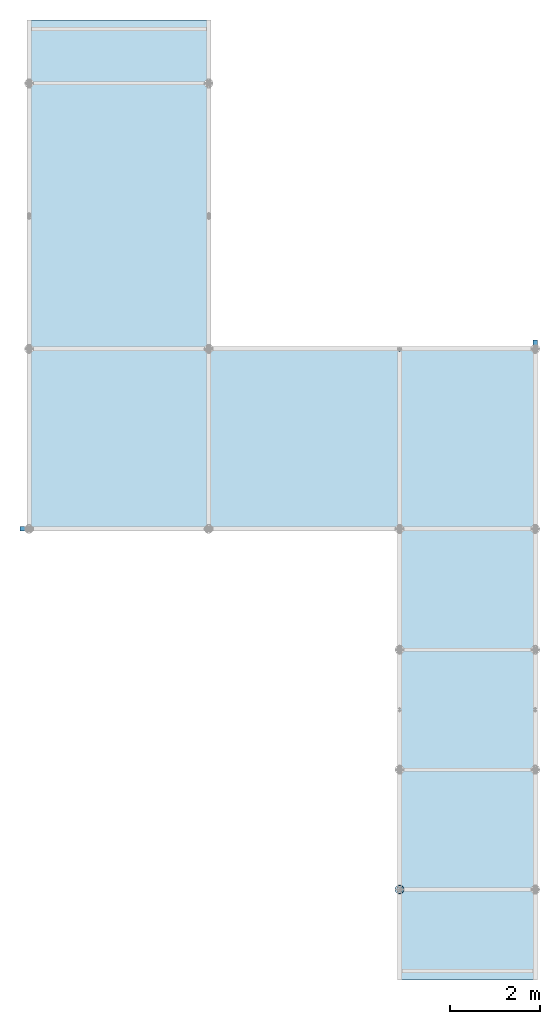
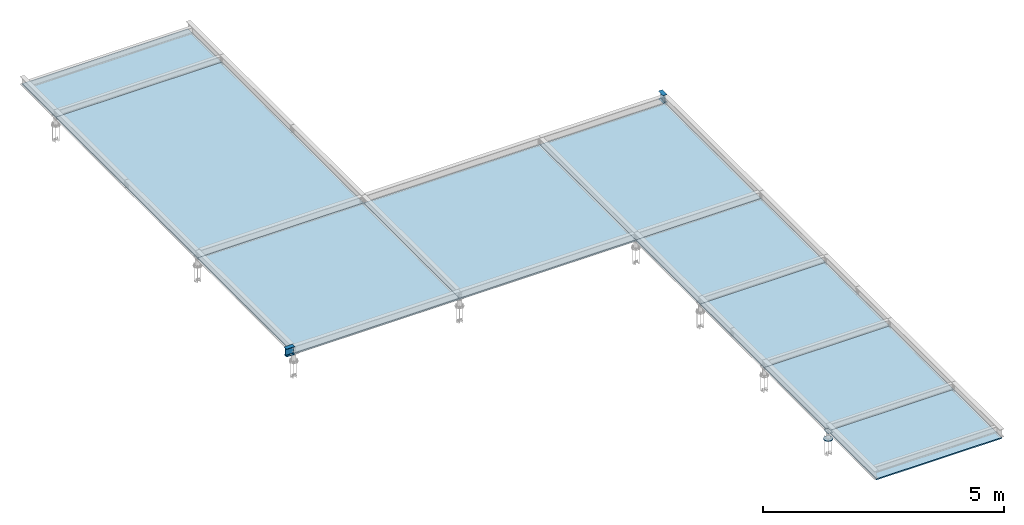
# One storey, part 5 of 84: 9 slabs, 2 beams, 2 plates.
"""IFC4 building model written with IfcOpenShell, lengths in metres."""

from ifc_helpers import new_model, si_unit, frame, origin_with_axes, origin_2d_with_axis, place, context, project, spatial, polyline, i_section, outline, extrude, material, material_profile, profile_set, profile_usage, type_object, element, save


model = new_model("IFC4")

# Units and contexts
model_context = context("Model", 3, precision=1e-05, world=origin_with_axes())
ifc_project = project(units=[si_unit("LENGTHUNIT", "METRE"), si_unit("AREAUNIT", "SQUARE_METRE"), si_unit("VOLUMEUNIT", "CUBIC_METRE"), si_unit("MASSUNIT", "GRAM", prefix="KILO"), si_unit("TIMEUNIT", "SECOND"), si_unit("PLANEANGLEUNIT", "RADIAN"), si_unit("SOLIDANGLEUNIT", "STERADIAN"), si_unit("THERMODYNAMICTEMPERATUREUNIT", "DEGREE_CELSIUS")], contexts=[model_context])

# Site, building, storey
placement_1 = place(None, origin_with_axes())
site = spatial("IfcSite", under=ifc_project, at=placement_1, Name="Italia", CompositionType="ELEMENT")
building = spatial("IfcBuilding", under=site, at=placement_1, Name="Tettoia", CompositionType="ELEMENT")
storey_placement = place(None, frame((0.0, 0.0, 4.199999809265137), z_axis=(0.0, 0.0, 1.0), x_axis=(1.0, 0.0, 0.0)))
storey = spatial("IfcBuildingStorey", under=building, at=storey_placement, Name="Storey 1", CompositionType="ELEMENT", Elevation=4.199999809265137)

# Beams
ifc_material_1 = material(Name="Acciaio", Category="Acciaio")
ifc_material_profile = material_profile(ifc_material_1, i_section(OverallWidth=0.082, OverallDepth=0.16, WebThickness=0.005, FlangeThickness=0.0074, FilletRadius=0.009, at=origin_2d_with_axis()), Name="3 IPE160")
ifc_profile_set = profile_set([ifc_material_profile])
ifc_profile_usage_1 = profile_usage(ifc_profile_set, cardinal=8)
beam_type_1 = type_object("IfcBeamType", Name="9 IPE200", PredefinedType="BEAM", material=ifc_profile_usage_1)
placement_2 = place(placement_1, origin_with_axes())
beam_1_placement = place(placement_2, origin_with_axes())
element("IfcBeam", 1, at=beam_1_placement, inside=storey, type_object=beam_type_1, Name="105", context=model_context, shape_type="SweptSolid", body=[
    extrude(i_section(OverallWidth=0.1, OverallDepth=0.2, WebThickness=0.0056, FlangeThickness=0.0085, FilletRadius=0.012, at=origin_2d_with_axis()), frame((0.0999998, 9.97, 4.3), z_axis=(-1.0, 0.0, -2.384185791e-06), x_axis=(0.0, -1.0, 0.0)), (0.0, 0.0, 1.0), 0.2),
])
ifc_profile_usage_2 = profile_usage(ifc_profile_set, cardinal=8)
beam_type_2 = type_object("IfcBeamType", Name="9 IPE200", PredefinedType="BEAM", material=ifc_profile_usage_2)
beam_2_placement = place(placement_2, origin_with_axes())
element("IfcBeam", 2, at=beam_2_placement, inside=storey, type_object=beam_type_2, Name="112", context=model_context, shape_type="SweptSolid", body=[
    extrude(i_section(OverallWidth=0.1, OverallDepth=0.2, WebThickness=0.0056, FlangeThickness=0.0085, FilletRadius=0.012, at=origin_2d_with_axis()), frame((11.29, 13.95, 4.3), z_axis=(0.0, 1.0, 0.0), x_axis=(-1.0, 0.0, 0.0)), (0.0, 0.0, 1.0), 0.2),
])

# Plates
plate_type_1 = type_object("IfcPlateType", Name="Collegamento -001_0101", PredefinedType="SHEET")
plate_1_placement = place(placement_2, origin_with_axes())
element("IfcPlate", 3, at=plate_1_placement, inside=storey, type_object=plate_type_1, Name="Collegamento -001_0101", context=model_context, shape_type="SweptSolid", body=[
    extrude(outline(polyline([(0.0, 0.0), (-0.00366306, -0.0152588), (-0.00966811, -0.0297556), (-0.0178671, -0.0431356), (-0.0280581, -0.055068), (-0.0399902, -0.065259), (-0.0533698, -0.0734577), (-0.067867, -0.0794621), (-0.0831254, -0.0831261), (-0.0987687, -0.0843573), (-0.114412, -0.0831261), (-0.12967, -0.0794621), (-0.144168, -0.0734577), (-0.157547, -0.065259), (-0.169479, -0.055068), (-0.17967, -0.0431356), (-0.187869, -0.0297556), (-0.193874, -0.0152588), (-0.197538, 0.0), (-0.198769, 0.0156431), (-0.197538, 0.0312862), (-0.193874, 0.046545), (-0.187869, 0.0610418), (-0.17967, 0.0744219), (-0.169479, 0.0863543), (-0.157547, 0.0965452), (-0.144168, 0.104744), (-0.12967, 0.110748), (-0.114412, 0.114412), (-0.0987687, 0.115644), (-0.0831254, 0.114412), (-0.067867, 0.110748), (-0.0533698, 0.104744), (-0.0399902, 0.0965452), (-0.0280581, 0.0863543), (-0.0178671, 0.0744219), (-0.00966811, 0.0610418), (-0.00366306, 0.046545), (0.0, 0.0312862), (0.00123119, 0.0156431), (0.0, 0.0)])), frame((8.30564, 2.09877, 4.0), z_axis=(0.0, 0.0, 1.0), x_axis=(0.0, 1.0, 0.0)), (0.0, 0.0, 1.0), 0.0149999),
])
plate_type_2 = type_object("IfcPlateType", Name="Collegamento 0101_-001", PredefinedType="SHEET")
plate_2_placement = place(placement_2, origin_with_axes())
element("IfcPlate", 4, at=plate_2_placement, inside=storey, type_object=plate_type_2, Name="Collegamento 0101_-001", context=model_context, shape_type="SweptSolid", body=[
    extrude(outline(polyline([(0.0, 0.0), (-0.18, 0.0), (-0.18, 0.101), (0.0, 0.101), (0.0, 0.0)])), frame((8.3405, 2.09, 4.195), z_axis=(0.0, 0.0, 1.0), x_axis=(0.0, 1.0, 0.0)), (0.0, 0.0, 1.0), 0.00500011),
])

# Slabs
ifc_material_2 = material(Name="Concrete", Category="Concrete")
slab_type_1 = type_object("IfcSlabType", Name="1 COPERTURA OMBREGGIANTE", PredefinedType="FLOOR", material=ifc_material_2)
slab_1_placement = place(placement_2, origin_with_axes())
element("IfcSlab", 5, at=slab_1_placement, inside=storey, type_object=slab_type_1, Name="100", context=model_context, shape_type="SweptSolid", body=[
    extrude(outline(polyline([(0.0, 0.0), (0.0, 3.97), (-1.4, 3.97), (-1.4, 0.0), (0.0, 0.0)])), frame((0.1, 21.22, 4.2), z_axis=(0.0, 0.0, -1.0), x_axis=(0.0, 1.0, 0.0)), (0.0, 0.0, 1.0), 0.0300002),
])
ifc_material_3 = material(Name="Concrete", Category="Concrete")
slab_type_2 = type_object("IfcSlabType", Name="1 COPERTURA OMBREGGIANTE", PredefinedType="FLOOR", material=ifc_material_3)
slab_2_placement = place(placement_2, origin_with_axes())
element("IfcSlab", 6, at=slab_2_placement, inside=storey, type_object=slab_type_2, Name="101", context=model_context, shape_type="SweptSolid", body=[
    extrude(outline(polyline([(0.0, 0.0), (0.0, 3.97), (-2.935, 3.97), (-5.87, 3.97), (-5.87, 0.0), (-2.935, 0.0), (0.0, 0.0)])), frame((0.1, 19.82, 4.2), z_axis=(0.0, 0.0, -1.0), x_axis=(0.0, 1.0, 0.0)), (0.0, 0.0, 1.0), 0.0300002),
])
ifc_material_4 = material(Name="Concrete", Category="Concrete")
slab_type_3 = type_object("IfcSlabType", Name="1 COPERTURA OMBREGGIANTE", PredefinedType="FLOOR", material=ifc_material_4)
slab_3_placement = place(placement_2, origin_with_axes())
element("IfcSlab", 7, at=slab_3_placement, inside=storey, type_object=slab_type_3, Name="102", context=model_context, shape_type="SweptSolid", body=[
    extrude(outline(polyline([(0.0, 0.0), (3.98, 0.0), (3.98, 3.97), (0.0, 3.97), (0.0, 0.0)])), frame((0.1, 9.97, 4.2), z_axis=(0.0, 0.0, -1.0), x_axis=(0.0, 1.0, 0.0)), (0.0, 0.0, 1.0), 0.0300002),
])
ifc_material_5 = material(Name="Concrete", Category="Concrete")
slab_type_4 = type_object("IfcSlabType", Name="1 COPERTURA OMBREGGIANTE", PredefinedType="FLOOR", material=ifc_material_5)
slab_4_placement = place(placement_2, origin_with_axes())
element("IfcSlab", 8, at=slab_4_placement, inside=storey, type_object=slab_type_4, Name="103", context=model_context, shape_type="SweptSolid", body=[
    extrude(outline(polyline([(0.0, 0.0), (0.0, 3.0), (-1.325, 3.0), (-2.65, 3.0), (-2.65, 0.0), (-1.325, 0.0), (0.0, 0.0)])), frame((8.29, 7.3, 4.2), z_axis=(0.0, 0.0, -1.0), x_axis=(0.0, 1.0, 0.0)), (0.0, 0.0, 1.0), 0.0300002),
])
ifc_material_6 = material(Name="Concrete", Category="Concrete")
slab_type_5 = type_object("IfcSlabType", Name="1 COPERTURA OMBREGGIANTE", PredefinedType="FLOOR", material=ifc_material_6)
slab_5_placement = place(placement_2, origin_with_axes())
element("IfcSlab", 9, at=slab_5_placement, inside=storey, type_object=slab_type_5, Name="104", context=model_context, shape_type="SweptSolid", body=[
    extrude(outline(polyline([(0.0, 0.0), (0.0, 3.0), (-2.65, 3.0), (-2.65, 0.0), (0.0, 0.0)])), frame((8.29, 4.65, 4.2), z_axis=(0.0, 0.0, -1.0), x_axis=(0.0, 1.0, 0.0)), (0.0, 0.0, 1.0), 0.0300002),
])
ifc_material_7 = material(Name="Concrete", Category="Concrete")
slab_type_6 = type_object("IfcSlabType", Name="1 COPERTURA OMBREGGIANTE", PredefinedType="FLOOR", material=ifc_material_7)
slab_6_placement = place(placement_2, origin_with_axes())
element("IfcSlab", 10, at=slab_6_placement, inside=storey, type_object=slab_type_6, Name="105", context=model_context, shape_type="SweptSolid", body=[
    extrude(outline(polyline([(0.0, 0.0), (0.0, 3.0), (-2.0, 3.0), (-2.0, 0.0), (0.0, 0.0)])), frame((8.29, 2.0, 4.2), z_axis=(0.0, 0.0, -1.0), x_axis=(0.0, 1.0, 0.0)), (0.0, 0.0, 1.0), 0.0300002),
])
ifc_material_8 = material(Name="Concrete", Category="Concrete")
slab_type_7 = type_object("IfcSlabType", Name="1 COPERTURA OMBREGGIANTE", PredefinedType="FLOOR", material=ifc_material_8)
slab_7_placement = place(placement_2, origin_with_axes())
element("IfcSlab", 11, at=slab_7_placement, inside=storey, type_object=slab_type_7, Name="106", context=model_context, shape_type="SweptSolid", body=[
    extrude(outline(polyline([(0.0, 0.0), (0.0, 4.22), (-3.98, 4.22), (-3.98, 0.0), (0.0, 0.0)])), frame((4.07, 13.95, 4.2), z_axis=(0.0, 0.0, -1.0), x_axis=(0.0, 1.0, 0.0)), (0.0, 0.0, 1.0), 0.0300002),
])
ifc_material_9 = material(Name="Concrete", Category="Concrete")
slab_type_8 = type_object("IfcSlabType", Name="1 COPERTURA OMBREGGIANTE", PredefinedType="FLOOR", material=ifc_material_9)
slab_8_placement = place(placement_2, origin_with_axes())
element("IfcSlab", 12, at=slab_8_placement, inside=storey, type_object=slab_type_8, Name="107", context=model_context, shape_type="SweptSolid", body=[
    extrude(outline(polyline([(0.0, 0.0), (0.0, 3.0), (-3.98, 3.0), (-3.98, 0.0), (0.0, 0.0)])), frame((8.29, 13.95, 4.2), z_axis=(0.0, 0.0, -1.0), x_axis=(0.0, 1.0, 0.0)), (0.0, 0.0, 1.0), 0.0300002),
])
ifc_material_10 = material(Name="Concrete", Category="Concrete")
slab_type_9 = type_object("IfcSlabType", Name="1 COPERTURA OMBREGGIANTE", PredefinedType="FLOOR", material=ifc_material_10)
slab_9_placement = place(placement_2, origin_with_axes())
element("IfcSlab", 13, at=slab_9_placement, inside=storey, type_object=slab_type_9, Name="108", context=model_context, shape_type="SweptSolid", body=[
    extrude(outline(polyline([(0.0, 0.0), (0.0, 3.0), (-2.67, 3.0), (-2.67, 0.0), (0.0, 0.0)])), frame((8.29, 9.97, 4.2), z_axis=(0.0, 0.0, -1.0), x_axis=(0.0, 1.0, 0.0)), (0.0, 0.0, 1.0), 0.0300002),
])

save(model, "model.ifc")
